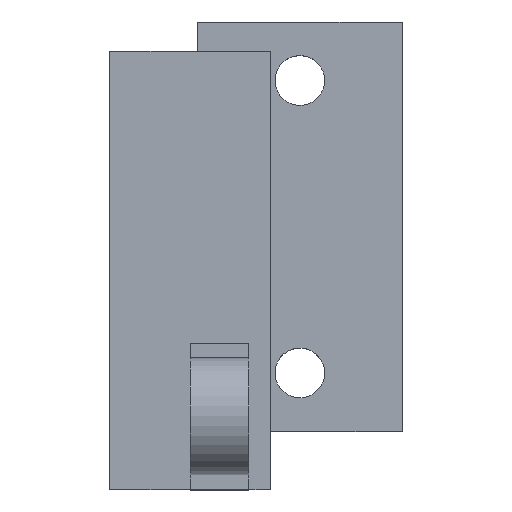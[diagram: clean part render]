
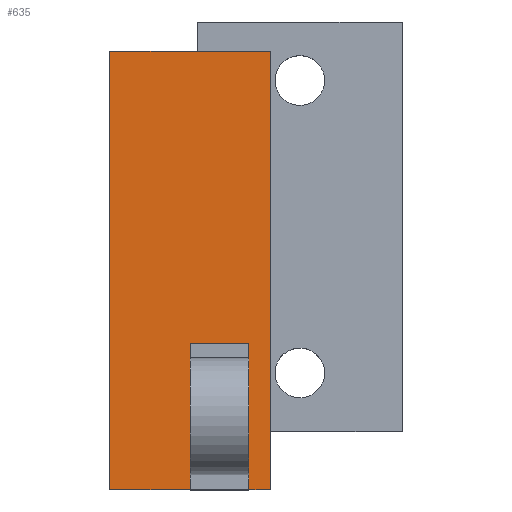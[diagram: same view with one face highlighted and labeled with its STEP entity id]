
A CAD part, top view. The second image highlights one B-rep face of the part: STEP entity #635.
In plain terms, the highlighted planar face has unit normal (0, 0, 1).
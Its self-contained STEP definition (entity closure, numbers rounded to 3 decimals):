
#50 = PLANE('',#51);
#51 = AXIS2_PLACEMENT_3D('',#52,#53,#54);
#52 = CARTESIAN_POINT('',(-60.,-23.,4.8));
#53 = DIRECTION('',(1.,0.,0.));
#54 = DIRECTION('',(0.,0.,1.));
#75 = VERTEX_POINT('',#76);
#76 = CARTESIAN_POINT('',(-60.,-23.,10.5));
#90 = PLANE('',#91);
#91 = AXIS2_PLACEMENT_3D('',#92,#93,#94);
#92 = CARTESIAN_POINT('',(-60.,-23.,4.8));
#93 = DIRECTION('',(0.,1.,0.));
#94 = DIRECTION('',(0.,-0.,1.));
#102 = EDGE_CURVE('',#103,#75,#105,.T.);
#103 = VERTEX_POINT('',#104);
#104 = CARTESIAN_POINT('',(-60.,-13.,10.5));
#105 = SURFACE_CURVE('',#106,(#110,#117),.PCURVE_S1.);
#106 = LINE('',#107,#108);
#107 = CARTESIAN_POINT('',(-60.,-23.,10.5));
#108 = VECTOR('',#109,1.);
#109 = DIRECTION('',(0.,-1.,0.));
#110 = PCURVE('',#50,#111);
#111 = DEFINITIONAL_REPRESENTATION('',(#112),#116);
#112 = LINE('',#113,#114);
#113 = CARTESIAN_POINT('',(5.7,0.));
#114 = VECTOR('',#115,1.);
#115 = DIRECTION('',(0.,1.));
#116 = ( GEOMETRIC_REPRESENTATION_CONTEXT(2) 
PARAMETRIC_REPRESENTATION_CONTEXT() REPRESENTATION_CONTEXT('2D SPACE',''
  ) );
#117 = PCURVE('',#118,#123);
#118 = PLANE('',#119);
#119 = AXIS2_PLACEMENT_3D('',#120,#121,#122);
#120 = CARTESIAN_POINT('',(-65.5,-23.,10.5));
#121 = DIRECTION('',(0.,0.,1.));
#122 = DIRECTION('',(1.,0.,-0.));
#123 = DEFINITIONAL_REPRESENTATION('',(#124),#128);
#124 = LINE('',#125,#126);
#125 = CARTESIAN_POINT('',(5.5,0.));
#126 = VECTOR('',#127,1.);
#127 = DIRECTION('',(0.,-1.));
#128 = ( GEOMETRIC_REPRESENTATION_CONTEXT(2) 
PARAMETRIC_REPRESENTATION_CONTEXT() REPRESENTATION_CONTEXT('2D SPACE',''
  ) );
#146 = PLANE('',#147);
#147 = AXIS2_PLACEMENT_3D('',#148,#149,#150);
#148 = CARTESIAN_POINT('',(-60.,-13.,4.8));
#149 = DIRECTION('',(0.,1.,0.));
#150 = DIRECTION('',(0.,-0.,1.));
#287 = PLANE('',#288);
#288 = AXIS2_PLACEMENT_3D('',#289,#290,#291);
#289 = CARTESIAN_POINT('',(-56.,-23.,4.8));
#290 = DIRECTION('',(1.,0.,0.));
#291 = DIRECTION('',(0.,0.,1.));
#323 = VERTEX_POINT('',#324);
#324 = CARTESIAN_POINT('',(-56.,-23.,10.5));
#345 = EDGE_CURVE('',#323,#346,#348,.T.);
#346 = VERTEX_POINT('',#347);
#347 = CARTESIAN_POINT('',(-54.5,-23.,10.5));
#348 = SURFACE_CURVE('',#349,(#353,#360),.PCURVE_S1.);
#349 = LINE('',#350,#351);
#350 = CARTESIAN_POINT('',(-65.5,-23.,10.5));
#351 = VECTOR('',#352,1.);
#352 = DIRECTION('',(1.,0.,0.));
#353 = PCURVE('',#90,#354);
#354 = DEFINITIONAL_REPRESENTATION('',(#355),#359);
#355 = LINE('',#356,#357);
#356 = CARTESIAN_POINT('',(5.7,-5.5));
#357 = VECTOR('',#358,1.);
#358 = DIRECTION('',(0.,1.));
#359 = ( GEOMETRIC_REPRESENTATION_CONTEXT(2) 
PARAMETRIC_REPRESENTATION_CONTEXT() REPRESENTATION_CONTEXT('2D SPACE',''
  ) );
#360 = PCURVE('',#118,#361);
#361 = DEFINITIONAL_REPRESENTATION('',(#362),#366);
#362 = LINE('',#363,#364);
#363 = CARTESIAN_POINT('',(0.,0.));
#364 = VECTOR('',#365,1.);
#365 = DIRECTION('',(1.,0.));
#366 = ( GEOMETRIC_REPRESENTATION_CONTEXT(2) 
PARAMETRIC_REPRESENTATION_CONTEXT() REPRESENTATION_CONTEXT('2D SPACE',''
  ) );
#384 = PLANE('',#385);
#385 = AXIS2_PLACEMENT_3D('',#386,#387,#388);
#386 = CARTESIAN_POINT('',(-54.5,-23.,7.5));
#387 = DIRECTION('',(1.,0.,0.));
#388 = DIRECTION('',(0.,0.,1.));
#537 = VERTEX_POINT('',#538);
#538 = CARTESIAN_POINT('',(-65.5,-23.,10.5));
#552 = PLANE('',#553);
#553 = AXIS2_PLACEMENT_3D('',#554,#555,#556);
#554 = CARTESIAN_POINT('',(-65.5,-23.,7.5));
#555 = DIRECTION('',(1.,0.,0.));
#556 = DIRECTION('',(0.,0.,1.));
#564 = EDGE_CURVE('',#537,#75,#565,.T.);
#565 = SURFACE_CURVE('',#566,(#570,#577),.PCURVE_S1.);
#566 = LINE('',#567,#568);
#567 = CARTESIAN_POINT('',(-65.5,-23.,10.5));
#568 = VECTOR('',#569,1.);
#569 = DIRECTION('',(1.,0.,0.));
#570 = PCURVE('',#90,#571);
#571 = DEFINITIONAL_REPRESENTATION('',(#572),#576);
#572 = LINE('',#573,#574);
#573 = CARTESIAN_POINT('',(5.7,-5.5));
#574 = VECTOR('',#575,1.);
#575 = DIRECTION('',(0.,1.));
#576 = ( GEOMETRIC_REPRESENTATION_CONTEXT(2) 
PARAMETRIC_REPRESENTATION_CONTEXT() REPRESENTATION_CONTEXT('2D SPACE',''
  ) );
#577 = PCURVE('',#118,#578);
#578 = DEFINITIONAL_REPRESENTATION('',(#579),#583);
#579 = LINE('',#580,#581);
#580 = CARTESIAN_POINT('',(0.,0.));
#581 = VECTOR('',#582,1.);
#582 = DIRECTION('',(1.,0.));
#583 = ( GEOMETRIC_REPRESENTATION_CONTEXT(2) 
PARAMETRIC_REPRESENTATION_CONTEXT() REPRESENTATION_CONTEXT('2D SPACE',''
  ) );
#635 = ADVANCED_FACE('',(#636),#118,.T.);
#636 = FACE_BOUND('',#637,.T.);
#637 = EDGE_LOOP('',(#638,#668,#689,#690,#691,#714,#735,#736));
#638 = ORIENTED_EDGE('',*,*,#639,.F.);
#639 = EDGE_CURVE('',#640,#642,#644,.T.);
#640 = VERTEX_POINT('',#641);
#641 = CARTESIAN_POINT('',(-65.5,7.,10.5));
#642 = VERTEX_POINT('',#643);
#643 = CARTESIAN_POINT('',(-54.5,7.,10.5));
#644 = SURFACE_CURVE('',#645,(#649,#656),.PCURVE_S1.);
#645 = LINE('',#646,#647);
#646 = CARTESIAN_POINT('',(-65.5,7.,10.5));
#647 = VECTOR('',#648,1.);
#648 = DIRECTION('',(1.,0.,0.));
#649 = PCURVE('',#118,#650);
#650 = DEFINITIONAL_REPRESENTATION('',(#651),#655);
#651 = LINE('',#652,#653);
#652 = CARTESIAN_POINT('',(0.,30.));
#653 = VECTOR('',#654,1.);
#654 = DIRECTION('',(1.,0.));
#655 = ( GEOMETRIC_REPRESENTATION_CONTEXT(2) 
PARAMETRIC_REPRESENTATION_CONTEXT() REPRESENTATION_CONTEXT('2D SPACE',''
  ) );
#656 = PCURVE('',#657,#662);
#657 = PLANE('',#658);
#658 = AXIS2_PLACEMENT_3D('',#659,#660,#661);
#659 = CARTESIAN_POINT('',(-65.5,7.,7.5));
#660 = DIRECTION('',(0.,1.,0.));
#661 = DIRECTION('',(0.,-0.,1.));
#662 = DEFINITIONAL_REPRESENTATION('',(#663),#667);
#663 = LINE('',#664,#665);
#664 = CARTESIAN_POINT('',(3.,0.));
#665 = VECTOR('',#666,1.);
#666 = DIRECTION('',(0.,1.));
#667 = ( GEOMETRIC_REPRESENTATION_CONTEXT(2) 
PARAMETRIC_REPRESENTATION_CONTEXT() REPRESENTATION_CONTEXT('2D SPACE',''
  ) );
#668 = ORIENTED_EDGE('',*,*,#669,.F.);
#669 = EDGE_CURVE('',#537,#640,#670,.T.);
#670 = SURFACE_CURVE('',#671,(#675,#682),.PCURVE_S1.);
#671 = LINE('',#672,#673);
#672 = CARTESIAN_POINT('',(-65.5,-23.,10.5));
#673 = VECTOR('',#674,1.);
#674 = DIRECTION('',(0.,1.,0.));
#675 = PCURVE('',#118,#676);
#676 = DEFINITIONAL_REPRESENTATION('',(#677),#681);
#677 = LINE('',#678,#679);
#678 = CARTESIAN_POINT('',(0.,0.));
#679 = VECTOR('',#680,1.);
#680 = DIRECTION('',(0.,1.));
#681 = ( GEOMETRIC_REPRESENTATION_CONTEXT(2) 
PARAMETRIC_REPRESENTATION_CONTEXT() REPRESENTATION_CONTEXT('2D SPACE',''
  ) );
#682 = PCURVE('',#552,#683);
#683 = DEFINITIONAL_REPRESENTATION('',(#684),#688);
#684 = LINE('',#685,#686);
#685 = CARTESIAN_POINT('',(3.,0.));
#686 = VECTOR('',#687,1.);
#687 = DIRECTION('',(0.,-1.));
#688 = ( GEOMETRIC_REPRESENTATION_CONTEXT(2) 
PARAMETRIC_REPRESENTATION_CONTEXT() REPRESENTATION_CONTEXT('2D SPACE',''
  ) );
#689 = ORIENTED_EDGE('',*,*,#564,.T.);
#690 = ORIENTED_EDGE('',*,*,#102,.F.);
#691 = ORIENTED_EDGE('',*,*,#692,.T.);
#692 = EDGE_CURVE('',#103,#693,#695,.T.);
#693 = VERTEX_POINT('',#694);
#694 = CARTESIAN_POINT('',(-56.,-13.,10.5));
#695 = SURFACE_CURVE('',#696,(#700,#707),.PCURVE_S1.);
#696 = LINE('',#697,#698);
#697 = CARTESIAN_POINT('',(-62.75,-13.,10.5));
#698 = VECTOR('',#699,1.);
#699 = DIRECTION('',(1.,0.,0.));
#700 = PCURVE('',#118,#701);
#701 = DEFINITIONAL_REPRESENTATION('',(#702),#706);
#702 = LINE('',#703,#704);
#703 = CARTESIAN_POINT('',(2.75,10.));
#704 = VECTOR('',#705,1.);
#705 = DIRECTION('',(1.,0.));
#706 = ( GEOMETRIC_REPRESENTATION_CONTEXT(2) 
PARAMETRIC_REPRESENTATION_CONTEXT() REPRESENTATION_CONTEXT('2D SPACE',''
  ) );
#707 = PCURVE('',#146,#708);
#708 = DEFINITIONAL_REPRESENTATION('',(#709),#713);
#709 = LINE('',#710,#711);
#710 = CARTESIAN_POINT('',(5.7,-2.75));
#711 = VECTOR('',#712,1.);
#712 = DIRECTION('',(0.,1.));
#713 = ( GEOMETRIC_REPRESENTATION_CONTEXT(2) 
PARAMETRIC_REPRESENTATION_CONTEXT() REPRESENTATION_CONTEXT('2D SPACE',''
  ) );
#714 = ORIENTED_EDGE('',*,*,#715,.T.);
#715 = EDGE_CURVE('',#693,#323,#716,.T.);
#716 = SURFACE_CURVE('',#717,(#721,#728),.PCURVE_S1.);
#717 = LINE('',#718,#719);
#718 = CARTESIAN_POINT('',(-56.,-23.,10.5));
#719 = VECTOR('',#720,1.);
#720 = DIRECTION('',(0.,-1.,0.));
#721 = PCURVE('',#118,#722);
#722 = DEFINITIONAL_REPRESENTATION('',(#723),#727);
#723 = LINE('',#724,#725);
#724 = CARTESIAN_POINT('',(9.5,0.));
#725 = VECTOR('',#726,1.);
#726 = DIRECTION('',(0.,-1.));
#727 = ( GEOMETRIC_REPRESENTATION_CONTEXT(2) 
PARAMETRIC_REPRESENTATION_CONTEXT() REPRESENTATION_CONTEXT('2D SPACE',''
  ) );
#728 = PCURVE('',#287,#729);
#729 = DEFINITIONAL_REPRESENTATION('',(#730),#734);
#730 = LINE('',#731,#732);
#731 = CARTESIAN_POINT('',(5.7,0.));
#732 = VECTOR('',#733,1.);
#733 = DIRECTION('',(0.,1.));
#734 = ( GEOMETRIC_REPRESENTATION_CONTEXT(2) 
PARAMETRIC_REPRESENTATION_CONTEXT() REPRESENTATION_CONTEXT('2D SPACE',''
  ) );
#735 = ORIENTED_EDGE('',*,*,#345,.T.);
#736 = ORIENTED_EDGE('',*,*,#737,.T.);
#737 = EDGE_CURVE('',#346,#642,#738,.T.);
#738 = SURFACE_CURVE('',#739,(#743,#750),.PCURVE_S1.);
#739 = LINE('',#740,#741);
#740 = CARTESIAN_POINT('',(-54.5,-23.,10.5));
#741 = VECTOR('',#742,1.);
#742 = DIRECTION('',(0.,1.,0.));
#743 = PCURVE('',#118,#744);
#744 = DEFINITIONAL_REPRESENTATION('',(#745),#749);
#745 = LINE('',#746,#747);
#746 = CARTESIAN_POINT('',(11.,0.));
#747 = VECTOR('',#748,1.);
#748 = DIRECTION('',(0.,1.));
#749 = ( GEOMETRIC_REPRESENTATION_CONTEXT(2) 
PARAMETRIC_REPRESENTATION_CONTEXT() REPRESENTATION_CONTEXT('2D SPACE',''
  ) );
#750 = PCURVE('',#384,#751);
#751 = DEFINITIONAL_REPRESENTATION('',(#752),#756);
#752 = LINE('',#753,#754);
#753 = CARTESIAN_POINT('',(3.,0.));
#754 = VECTOR('',#755,1.);
#755 = DIRECTION('',(0.,-1.));
#756 = ( GEOMETRIC_REPRESENTATION_CONTEXT(2) 
PARAMETRIC_REPRESENTATION_CONTEXT() REPRESENTATION_CONTEXT('2D SPACE',''
  ) );
